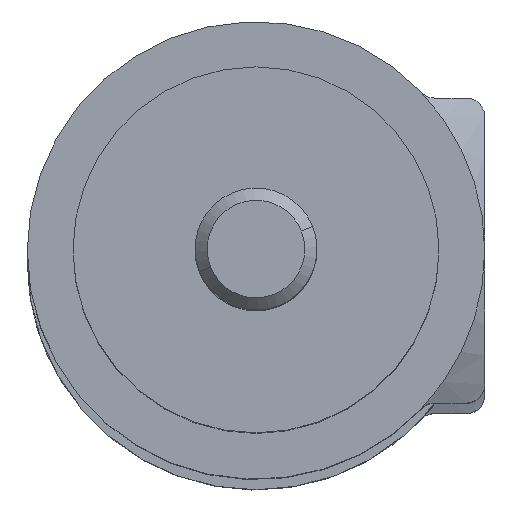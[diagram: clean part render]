
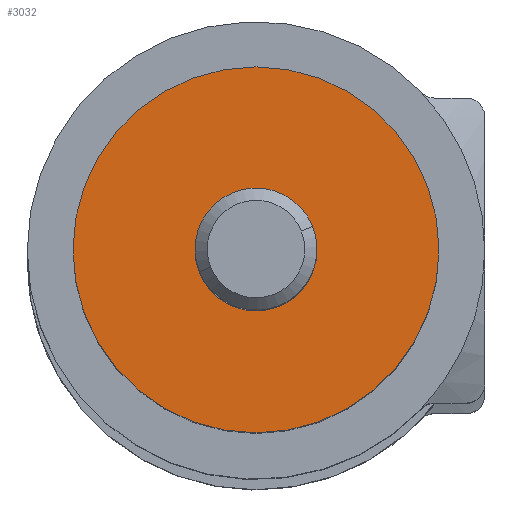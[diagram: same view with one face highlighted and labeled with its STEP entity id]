
A CAD part, top view. The second image highlights one B-rep face of the part: STEP entity #3032.
In plain terms, the highlighted planar face has unit normal (0, 0, 1) as drawn and (0, 0, -1) by its records, which use the part's own axes.
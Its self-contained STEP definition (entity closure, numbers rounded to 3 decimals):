
#55 = VERTEX_POINT ( 'NONE', #2451 ) ;
#82 = DIRECTION ( 'NONE',  ( -1., 0., 0. ) ) ;
#97 = CARTESIAN_POINT ( 'NONE',  ( 0., 0., 0. ) ) ;
#104 = DIRECTION ( 'NONE',  ( 0., 0., -1. ) ) ;
#115 = EDGE_CURVE ( 'NONE', #4455, #55, #5168, .T. ) ;
#207 = ORIENTED_EDGE ( 'NONE', *, *, #3081, .F. ) ;
#240 = FACE_BOUND ( 'NONE', #3689, .T. ) ;
#381 = AXIS2_PLACEMENT_3D ( 'NONE', #2252, #2258, #2279 ) ;
#529 = CARTESIAN_POINT ( 'NONE',  ( 0., 0., 0. ) ) ;
#548 = DIRECTION ( 'NONE',  ( 0., 0., -1. ) ) ;
#560 = DIRECTION ( 'NONE',  ( -1., 0., 0. ) ) ;
#640 = VERTEX_POINT ( 'NONE', #3734 ) ;
#1306 = CARTESIAN_POINT ( 'NONE',  ( -6.072, -6.072, 0. ) ) ;
#1309 = PLANE ( 'NONE',  #5382 ) ;
#1365 = DIRECTION ( 'NONE',  ( 0., 0., 1. ) ) ;
#1389 = DIRECTION ( 'NONE',  ( 1., 0., 0. ) ) ;
#1435 = FACE_OUTER_BOUND ( 'NONE', #2905, .T. ) ;
#1607 = EDGE_CURVE ( 'NONE', #55, #4455, #4846, .T. ) ;
#1683 = DIRECTION ( 'NONE',  ( 0., 0., -1. ) ) ;
#1728 = EDGE_CURVE ( 'NONE', #640, #2281, #4283, .T. ) ;
#2252 = CARTESIAN_POINT ( 'NONE',  ( 0., 0., 0. ) ) ;
#2258 = DIRECTION ( 'NONE',  ( 0., 0., -1. ) ) ;
#2279 = DIRECTION ( 'NONE',  ( -1., 0., 0. ) ) ;
#2281 = VERTEX_POINT ( 'NONE', #3996 ) ;
#2451 = CARTESIAN_POINT ( 'NONE',  ( -6., 0., 0. ) ) ;
#2513 = AXIS2_PLACEMENT_3D ( 'NONE', #97, #104, #82 ) ;
#2905 = EDGE_LOOP ( 'NONE', ( #4224, #4023 ) ) ;
#2991 = CARTESIAN_POINT ( 'NONE',  ( 0., 0., 0. ) ) ;
#3032 = ADVANCED_FACE ( 'NONE', ( #1435, #240 ), #1309, .F. ) ;
#3081 = EDGE_CURVE ( 'NONE', #2281, #640, #3485, .T. ) ;
#3485 = CIRCLE ( 'NONE', #381, 2. ) ;
#3689 = EDGE_LOOP ( 'NONE', ( #207, #3783 ) ) ;
#3734 = CARTESIAN_POINT ( 'NONE',  ( 2., 0., 0. ) ) ;
#3783 = ORIENTED_EDGE ( 'NONE', *, *, #1728, .F. ) ;
#3943 = CARTESIAN_POINT ( 'NONE',  ( 6., 0., 0. ) ) ;
#3996 = CARTESIAN_POINT ( 'NONE',  ( -2., 0., 0. ) ) ;
#4023 = ORIENTED_EDGE ( 'NONE', *, *, #115, .T. ) ;
#4224 = ORIENTED_EDGE ( 'NONE', *, *, #1607, .T. ) ;
#4283 = CIRCLE ( 'NONE', #4836, 2. ) ;
#4455 = VERTEX_POINT ( 'NONE', #3943 ) ;
#4603 = AXIS2_PLACEMENT_3D ( 'NONE', #2991, #1683, #5103 ) ;
#4836 = AXIS2_PLACEMENT_3D ( 'NONE', #529, #548, #560 ) ;
#4846 = CIRCLE ( 'NONE', #2513, 6. ) ;
#5103 = DIRECTION ( 'NONE',  ( -1., 0., 0. ) ) ;
#5168 = CIRCLE ( 'NONE', #4603, 6. ) ;
#5382 = AXIS2_PLACEMENT_3D ( 'NONE', #1306, #1365, #1389 ) ;
